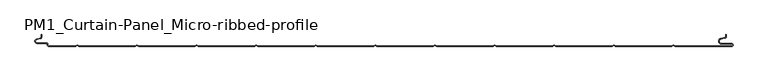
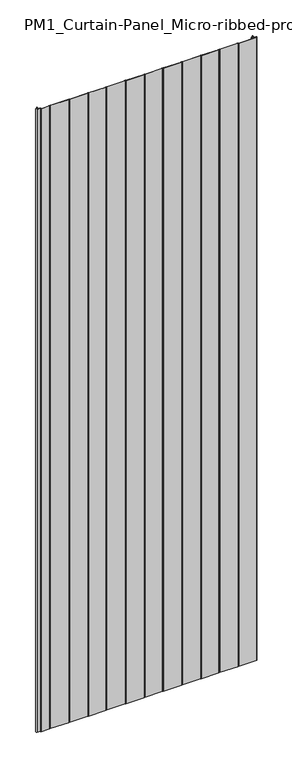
"""IFC4 building model written with IfcOpenShell, lengths in millimetres: plate geometry, PM1_Curtain-Panel_Micro-ribbed-profile : ACH_PM1_Acoustic-Sectioning-Panel_100M."""

from ifc_helpers import new_model, si_unit, frame, origin, place, context, project, spatial, polyline, circle_curve, source, transform, mapped, element, save
from ifc_brep_helpers import plane_surface, cylinder_surface, revolved_surface, advanced_brep


def pm1_curtain_panel_micro_ribbed_profile_49ab79ae(model_context):
    return source(origin(), model_context, "Body", "AdvancedBrep", [
        advanced_brep(
        [(-575.0, -84.121443, 3500.0), (-576.5500978, -86.0701831, 3500.0), (-582.7098239, -87.492268, 3500.0), (-581.9, -94.6, 3500.0), (-566.4, -94.6, 3500.0), (-564.4, -96.6, 3500.0), (-564.4, -98.0, 3500.0), (-562.4, -100.0, 3500.0), (-517.0999995, -100.0, 3500.0), (-514.4, -98.4411545, 3500.0), (-511.7000005, -100.0, 3500.0), (-417.0999995, -100.0, 3500.0), (-414.4, -98.4411545, 3500.0), (-411.7000005, -100.0, 3500.0), (-317.0999995, -100.0, 3500.0), (-314.4, -98.4411545, 3500.0), (-311.7000005, -100.0, 3500.0), (-217.0999995, -100.0, 3500.0), (-214.4, -98.4411545, 3500.0), (-211.7000005, -100.0, 3500.0), (-117.0999995, -100.0, 3500.0), (-114.4, -98.4411545, 3500.0), (-111.7000005, -100.0, 3500.0), (-17.0999995, -100.0, 3500.0), (-14.4, -98.4411545, 3500.0), (-11.7000005, -100.0, 3500.0), (82.9000005, -100.0, 3500.0), (85.6, -98.4411545, 3500.0), (88.2999995, -100.0, 3500.0), (182.9000005, -100.0, 3500.0), (185.6, -98.4411545, 3500.0), (188.2999995, -100.0, 3500.0), (282.9000005, -100.0, 3500.0), (285.6, -98.4411545, 3500.0), (288.2999995, -100.0, 3500.0), (382.9000005, -100.0, 3500.0), (385.6, -98.4411545, 3500.0), (388.2999995, -100.0, 3500.0), (482.9000005, -100.0, 3500.0), (485.6, -98.4411545, 3500.0), (488.2999995, -100.0, 3500.0), (583.1, -100.0, 3500.0), (585.6, -97.5, 3500.0), (583.1, -95.0, 3500.0), (566.1, -95.0, 3500.0), (565.405407, -87.060769, 3500.0), (571.8514855, -85.9241509, 3500.0), (574.0, -83.3636508, 3500.0), (574.0, -80.0, 3500.0), (573.2, -80.0, 3500.0), (573.2, -83.3636508, 3500.0), (571.7125669, -85.1363047, 3500.0), (565.2664884, -86.2729228, 3500.0), (566.1, -95.8, 3500.0), (583.1, -95.8, 3500.0), (583.1, -99.2, 3500.0), (488.5143588, -99.2, 3500.0), (485.6, -97.517394, 3500.0), (482.6856412, -99.2, 3500.0), (388.5143588, -99.2, 3500.0), (385.6, -97.517394, 3500.0), (382.6856412, -99.2, 3500.0), (288.5143588, -99.2, 3500.0), (285.6, -97.517394, 3500.0), (282.6856412, -99.2, 3500.0), (188.5143588, -99.2, 3500.0), (185.6, -97.517394, 3500.0), (182.6856412, -99.2, 3500.0), (88.5143588, -99.2, 3500.0), (85.6, -97.517394, 3500.0), (82.6856412, -99.2, 3500.0), (-11.4856412, -99.2, 3500.0), (-14.4, -97.517394, 3500.0), (-17.3143588, -99.2, 3500.0), (-111.4856412, -99.2, 3500.0), (-114.4, -97.517394, 3500.0), (-117.3143588, -99.2, 3500.0), (-211.4856412, -99.2, 3500.0), (-214.4, -97.517394, 3500.0), (-217.3143588, -99.2, 3500.0), (-311.4856412, -99.2, 3500.0), (-314.4, -97.517394, 3500.0), (-317.3143588, -99.2, 3500.0), (-411.4856412, -99.2, 3500.0), (-414.4, -97.517394, 3500.0), (-417.3143588, -99.2, 3500.0), (-511.4856412, -99.2, 3500.0), (-514.4, -97.517394, 3500.0), (-517.3143588, -99.2, 3500.0), (-562.4, -99.2, 3500.0), (-563.6, -98.0, 3500.0), (-563.6, -96.6, 3500.0), (-566.4, -93.8, 3500.0), (-581.9, -93.8, 3500.0), (-582.529863, -88.2717638, 3500.0), (-576.370137, -86.849679, 3500.0), (-574.2, -84.121443, 3500.0), (-574.2, -80.0, 3500.0), (-575.0, -80.0, 3500.0), (-575.0, -84.121443, 0.0), (-575.0, -80.0, 0.0), (-574.2, -80.0, 0.0), (-574.2, -84.121443, 0.0), (-576.370137, -86.8496792, 0.0), (-582.529863, -88.271764, 0.0), (-581.9, -93.8, 0.0), (-566.4, -93.8, 0.0), (-563.6, -96.6, 0.0), (-563.6, -98.0, 0.0), (-562.4, -99.2, 0.0), (-517.3143588, -99.2, 0.0), (-514.4, -97.517394, 0.0), (-511.4856412, -99.2, 0.0), (-417.3143588, -99.2, 0.0), (-414.4, -97.517394, 0.0), (-411.4856412, -99.2, 0.0), (-317.3143588, -99.2, 0.0), (-314.4, -97.517394, 0.0), (-311.4856412, -99.2, 0.0), (-217.3143588, -99.2, 0.0), (-214.4, -97.517394, 0.0), (-211.4856412, -99.2, 0.0), (-117.3143588, -99.2, 0.0), (-114.4, -97.517394, 0.0), (-111.4856412, -99.2, 0.0), (-17.3143588, -99.2, 0.0), (-14.4, -97.517394, 0.0), (-11.4856412, -99.2, 0.0), (82.6856412, -99.2, 0.0), (85.6, -97.517394, 0.0), (88.5143588, -99.2, 0.0), (182.6856412, -99.2, 0.0), (185.6, -97.517394, 0.0), (188.5143588, -99.2, 0.0), (282.6856412, -99.2, 0.0), (285.6, -97.517394, 0.0), (288.5143588, -99.2, 0.0), (382.6856412, -99.2, 0.0), (385.6, -97.517394, 0.0), (388.5143588, -99.2, 0.0), (482.6856412, -99.2, 0.0), (485.6, -97.517394, 0.0), (488.5143588, -99.2, 0.0), (583.1, -99.2, 0.0), (583.1, -95.8, 0.0), (566.1, -95.8, 0.0), (565.2664884, -86.2729229, 0.0), (571.7125669, -85.1363047, 0.0), (573.2, -83.3636508, 0.0), (573.2, -80.0, 0.0), (574.0, -80.0, 0.0), (574.0, -83.3636508, 0.0), (571.8514855, -85.9241509, 0.0), (565.405407, -87.060769, 0.0), (566.1, -95.0, 0.0), (583.1, -95.0, 0.0), (585.6, -97.5, 0.0), (583.1, -100.0, 0.0), (488.2999995, -100.0, 0.0), (485.6, -98.4411545, 0.0), (482.9000005, -100.0, 0.0), (388.2999995, -100.0, 0.0), (385.6, -98.4411545, 0.0), (382.9000005, -100.0, 0.0), (288.2999995, -100.0, 0.0), (285.6, -98.4411545, 0.0), (282.9000005, -100.0, 0.0), (188.2999995, -100.0, 0.0), (185.6, -98.4411545, 0.0), (182.9000005, -100.0, 0.0), (88.2999995, -100.0, 0.0), (85.6, -98.4411545, 0.0), (82.9000005, -100.0, 0.0), (-11.7000005, -100.0, 0.0), (-14.4, -98.4411545, 0.0), (-17.0999995, -100.0, 0.0), (-111.7000005, -100.0, 0.0), (-114.4, -98.4411545, 0.0), (-117.0999995, -100.0, 0.0), (-211.7000005, -100.0, 0.0), (-214.4, -98.4411545, 0.0), (-217.0999995, -100.0, 0.0), (-311.7000005, -100.0, 0.0), (-314.4, -98.4411545, 0.0), (-317.0999995, -100.0, 0.0), (-411.7000005, -100.0, 0.0), (-414.4, -98.4411545, 0.0), (-417.0999995, -100.0, 0.0), (-511.7000005, -100.0, 0.0), (-514.4, -98.4411545, 0.0), (-517.0999995, -100.0, 0.0), (-562.4, -100.0, 0.0), (-564.4, -98.0, 0.0), (-564.4, -96.6, 0.0), (-566.4, -94.6, 0.0), (-581.9, -94.6, 0.0), (-582.7098239, -87.4922678, 0.0), (-576.5500979, -86.070183, 0.0)],
        [
            (0, 1, circle_curve(frame((-577.0, -84.121443, 3500.0), z_axis=(0.0, 0.0, -1.0), x_axis=(1.0, 0.0, 0.0)), 2.0)),
            (1, 2),
            (2, 3, circle_curve(frame((-581.9, -91.0, 3500.0), z_axis=(0.0, 0.0, 1.0), x_axis=(1.0, 0.0, 0.0)), 3.6)),
            (3, 4),
            (4, 5, circle_curve(frame((-566.4, -96.6, 3500.0), z_axis=(0.0, 0.0, -1.0), x_axis=(1.0, 0.0, 0.0)), 2.0)),
            (5, 6),
            (6, 7, circle_curve(frame((-562.4, -98.0, 3500.0), z_axis=(0.0, 0.0, 1.0), x_axis=(1.0, 0.0, 0.0)), 2.0)),
            (7, 8),
            (8, 9),
            (9, 10),
            (10, 11),
            (11, 12),
            (12, 13),
            (13, 14),
            (14, 15),
            (15, 16),
            (16, 17),
            (17, 18),
            (18, 19),
            (19, 20),
            (20, 21),
            (21, 22),
            (22, 23),
            (23, 24),
            (24, 25),
            (25, 26),
            (26, 27),
            (27, 28),
            (28, 29),
            (29, 30),
            (30, 31),
            (31, 32),
            (32, 33),
            (33, 34),
            (34, 35),
            (35, 36),
            (36, 37),
            (37, 38),
            (38, 39),
            (39, 40),
            (40, 41),
            (41, 42, circle_curve(frame((583.1, -97.5, 3500.0), z_axis=(0.0, 0.0, 1.0), x_axis=(1.0, 0.0, 0.0)), 2.5)),
            (42, 43, circle_curve(frame((583.1, -97.5, 3500.0), z_axis=(0.0, 0.0, 1.0), x_axis=(1.0, 0.0, 0.0)), 2.5)),
            (43, 44),
            (44, 45, circle_curve(frame((566.1, -91.0, 3500.0), z_axis=(0.0, 0.0, -1.0), x_axis=(1.0, 0.0, 0.0)), 4.0)),
            (45, 46),
            (46, 47, circle_curve(frame((571.4, -83.3636508, 3500.0), z_axis=(0.0, 0.0, 1.0), x_axis=(1.0, 0.0, 0.0)), 2.6)),
            (47, 48),
            (48, 49),
            (49, 50),
            (50, 51, circle_curve(frame((571.4, -83.3636508, 3500.0), z_axis=(0.0, 0.0, -1.0), x_axis=(1.0, 0.0, 0.0)), 1.8)),
            (51, 52),
            (52, 53, circle_curve(frame((566.1, -91.0, 3500.0), z_axis=(0.0, 0.0, 1.0), x_axis=(1.0, 0.0, 0.0)), 4.8)),
            (53, 54),
            (54, 55, circle_curve(frame((583.1, -97.5, 3500.0), z_axis=(0.0, 0.0, -1.0), x_axis=(1.0, 0.0, 0.0)), 1.7)),
            (55, 56),
            (56, 57),
            (57, 58),
            (58, 59),
            (59, 60),
            (60, 61),
            (61, 62),
            (62, 63),
            (63, 64),
            (64, 65),
            (65, 66),
            (66, 67),
            (67, 68),
            (68, 69),
            (69, 70),
            (70, 71),
            (71, 72),
            (72, 73),
            (73, 74),
            (74, 75),
            (75, 76),
            (76, 77),
            (77, 78),
            (78, 79),
            (79, 80),
            (80, 81),
            (81, 82),
            (82, 83),
            (83, 84),
            (84, 85),
            (85, 86),
            (86, 87),
            (87, 88),
            (88, 89),
            (89, 90, circle_curve(frame((-562.4, -98.0, 3500.0), z_axis=(0.0, 0.0, -1.0), x_axis=(1.0, 0.0, 0.0)), 1.2)),
            (90, 91),
            (91, 92, circle_curve(frame((-566.4, -96.6, 3500.0), z_axis=(0.0, 0.0, 1.0), x_axis=(1.0, 0.0, 0.0)), 2.8)),
            (92, 93),
            (93, 94, circle_curve(frame((-581.9, -91.0, 3500.0), z_axis=(0.0, 0.0, -1.0), x_axis=(1.0, 0.0, 0.0)), 2.8)),
            (94, 95),
            (95, 96, circle_curve(frame((-577.0, -84.121443, 3500.0), z_axis=(0.0, 0.0, 1.0), x_axis=(1.0, 0.0, 0.0)), 2.8)),
            (96, 97),
            (97, 98),
            (98, 0),
            (99, 100),
            (100, 101),
            (101, 102),
            (102, 103, circle_curve(frame((-577.0, -84.121443, 0.0), z_axis=(0.0, 0.0, -1.0), x_axis=(1.0, 0.0, 0.0)), 2.8)),
            (103, 104),
            (104, 105, circle_curve(frame((-581.9, -91.0, 0.0), z_axis=(0.0, 0.0, 1.0), x_axis=(1.0, 0.0, 0.0)), 2.8)),
            (105, 106),
            (106, 107, circle_curve(frame((-566.4, -96.6, 0.0), z_axis=(0.0, 0.0, -1.0), x_axis=(1.0, 0.0, 0.0)), 2.8)),
            (107, 108),
            (108, 109, circle_curve(frame((-562.4, -98.0, 0.0), z_axis=(0.0, 0.0, 1.0), x_axis=(1.0, 0.0, 0.0)), 1.2)),
            (109, 110),
            (110, 111),
            (111, 112),
            (112, 113),
            (113, 114),
            (114, 115),
            (115, 116),
            (116, 117),
            (117, 118),
            (118, 119),
            (119, 120),
            (120, 121),
            (121, 122),
            (122, 123),
            (123, 124),
            (124, 125),
            (125, 126),
            (126, 127),
            (127, 128),
            (128, 129),
            (129, 130),
            (130, 131),
            (131, 132),
            (132, 133),
            (133, 134),
            (134, 135),
            (135, 136),
            (136, 137),
            (137, 138),
            (138, 139),
            (139, 140),
            (140, 141),
            (141, 142),
            (142, 143),
            (143, 144, circle_curve(frame((583.1, -97.5, 0.0), z_axis=(0.0, 0.0, 1.0), x_axis=(1.0, 0.0, 0.0)), 1.7)),
            (144, 145),
            (145, 146, circle_curve(frame((566.1, -91.0, 0.0), z_axis=(0.0, 0.0, -1.0), x_axis=(1.0, 0.0, 0.0)), 4.8)),
            (146, 147),
            (147, 148, circle_curve(frame((571.4, -83.3636508, 0.0), z_axis=(0.0, 0.0, 1.0), x_axis=(1.0, 0.0, 0.0)), 1.8)),
            (148, 149),
            (149, 150),
            (150, 151),
            (151, 152, circle_curve(frame((571.4, -83.3636508, 0.0), z_axis=(0.0, 0.0, -1.0), x_axis=(1.0, 0.0, 0.0)), 2.6)),
            (152, 153),
            (153, 154, circle_curve(frame((566.1, -91.0, 0.0), z_axis=(0.0, 0.0, 1.0), x_axis=(1.0, 0.0, 0.0)), 4.0)),
            (154, 155),
            (155, 156, circle_curve(frame((583.1, -97.5, 0.0), z_axis=(0.0, 0.0, -1.0), x_axis=(1.0, 0.0, 0.0)), 2.5)),
            (156, 157, circle_curve(frame((583.1, -97.5, 0.0), z_axis=(0.0, 0.0, -1.0), x_axis=(1.0, 0.0, 0.0)), 2.5)),
            (157, 158),
            (158, 159),
            (159, 160),
            (160, 161),
            (161, 162),
            (162, 163),
            (163, 164),
            (164, 165),
            (165, 166),
            (166, 167),
            (167, 168),
            (168, 169),
            (169, 170),
            (170, 171),
            (171, 172),
            (172, 173),
            (173, 174),
            (174, 175),
            (175, 176),
            (176, 177),
            (177, 178),
            (178, 179),
            (179, 180),
            (180, 181),
            (181, 182),
            (182, 183),
            (183, 184),
            (184, 185),
            (185, 186),
            (186, 187),
            (187, 188),
            (188, 189),
            (189, 190),
            (190, 191),
            (191, 192, circle_curve(frame((-562.4, -98.0, 0.0), z_axis=(0.0, 0.0, -1.0), x_axis=(1.0, 0.0, 0.0)), 2.0)),
            (192, 193),
            (193, 194, circle_curve(frame((-566.4, -96.6, 0.0), z_axis=(0.0, 0.0, 1.0), x_axis=(1.0, 0.0, 0.0)), 2.0)),
            (194, 195),
            (195, 196, circle_curve(frame((-581.9, -91.0, 0.0), z_axis=(0.0, 0.0, -1.0), x_axis=(1.0, 0.0, 0.0)), 3.6)),
            (196, 197),
            (197, 99, circle_curve(frame((-577.0, -84.121443, 0.0), z_axis=(0.0, 0.0, 1.0), x_axis=(1.0, 0.0, 0.0)), 2.0)),
            (0, 99),
            (197, 1),
            (196, 2),
            (195, 3),
            (194, 4),
            (193, 5),
            (192, 6),
            (191, 7),
            (190, 8),
            (189, 9),
            (188, 10),
            (187, 11),
            (186, 12),
            (185, 13),
            (184, 14),
            (183, 15),
            (182, 16),
            (181, 17),
            (180, 18),
            (179, 19),
            (178, 20),
            (177, 21),
            (176, 22),
            (175, 23),
            (174, 24),
            (173, 25),
            (172, 26),
            (171, 27),
            (170, 28),
            (169, 29),
            (168, 30),
            (167, 31),
            (166, 32),
            (165, 33),
            (164, 34),
            (163, 35),
            (162, 36),
            (161, 37),
            (160, 38),
            (159, 39),
            (158, 40),
            (157, 41),
            (155, 43),
            (154, 44),
            (153, 45),
            (152, 46),
            (151, 47),
            (150, 48),
            (149, 49),
            (148, 50),
            (147, 51),
            (146, 52),
            (145, 53),
            (144, 54),
            (143, 55),
            (142, 56),
            (141, 57),
            (140, 58),
            (139, 59),
            (138, 60),
            (137, 61),
            (136, 62),
            (135, 63),
            (134, 64),
            (133, 65),
            (132, 66),
            (131, 67),
            (130, 68),
            (129, 69),
            (128, 70),
            (127, 71),
            (126, 72),
            (125, 73),
            (124, 74),
            (123, 75),
            (122, 76),
            (121, 77),
            (120, 78),
            (119, 79),
            (118, 80),
            (117, 81),
            (116, 82),
            (115, 83),
            (114, 84),
            (113, 85),
            (112, 86),
            (111, 87),
            (110, 88),
            (109, 89),
            (108, 90),
            (107, 91),
            (106, 92),
            (105, 93),
            (104, 94),
            (103, 95),
            (102, 96),
            (101, 97),
            (100, 98),
        ],
        [
            plane_surface(frame((-575.0, -100.0, 3500.0), z_axis=(0.0, 0.0, 1.0), x_axis=(0.0, 1.0, 0.0))),
            plane_surface(frame((-575.0, -100.0, 0.0), z_axis=(0.0, 0.0, -1.0), x_axis=(0.0, 1.0, 0.0))),
            revolved_surface(polyline([(-575.0, -84.121443, 0.0), (-575.0, -84.121443, 3500.0)]), (-577.0, -84.121443, 3500.0), (0.0, 0.0, -1.0)),
            plane_surface(frame((-576.5500979, -86.070183, 3500.0), z_axis=(-0.22495108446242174, 0.9743700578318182, 0.0), x_axis=(0.0, 0.0, -1.0))),
            cylinder_surface(frame((-581.9, -91.0, 3500.0), z_axis=(0.0, 0.0, 1.0), x_axis=(1.0, 0.0, 0.0)), 3.6),
            plane_surface(frame((-581.9, -94.6, 3500.0), z_axis=(0.0, -1.0, 0.0), x_axis=(0.0, 0.0, -1.0))),
            revolved_surface(polyline([(-564.4, -96.6, 0.0), (-564.4, -96.6, 3500.0)]), (-566.4, -96.6, 3500.0), (0.0, 0.0, -1.0)),
            plane_surface(frame((-564.4, -96.6, 3500.0), z_axis=(-1.0, 0.0, 0.0), x_axis=(0.0, 0.0, -1.0))),
            cylinder_surface(frame((-562.4, -98.0, 3500.0), z_axis=(0.0, 0.0, 1.0), x_axis=(1.0, 0.0, 0.0)), 2.0),
            plane_surface(frame((-562.4, -100.0, 3500.0), z_axis=(0.0, -1.0, 0.0), x_axis=(0.0, 0.0, -1.0))),
            plane_surface(frame((-517.0999995, -100.0, 3500.0), z_axis=(0.5000000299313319, -0.8660253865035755, 0.0), x_axis=(0.0, 0.0, -1.0))),
            plane_surface(frame((-514.4, -98.4411545, 3500.0), z_axis=(-0.5000000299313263, -0.8660253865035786, 0.0), x_axis=(0.0, 0.0, -1.0))),
            plane_surface(frame((-511.7000005, -100.0, 3500.0), z_axis=(0.0, -1.0, 0.0), x_axis=(0.0, 0.0, -1.0))),
            plane_surface(frame((-417.0999995, -100.0, 3500.0), z_axis=(0.5000000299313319, -0.8660253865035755, 0.0), x_axis=(0.0, 0.0, -1.0))),
            plane_surface(frame((-414.4, -98.4411545, 3500.0), z_axis=(-0.5000000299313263, -0.8660253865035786, 0.0), x_axis=(0.0, 0.0, -1.0))),
            plane_surface(frame((-411.7000005, -100.0, 3500.0), z_axis=(0.0, -1.0, 0.0), x_axis=(0.0, 0.0, -1.0))),
            plane_surface(frame((-317.0999995, -100.0, 3500.0), z_axis=(0.5000000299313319, -0.8660253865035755, 0.0), x_axis=(0.0, 0.0, -1.0))),
            plane_surface(frame((-314.4, -98.4411545, 3500.0), z_axis=(-0.5000000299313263, -0.8660253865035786, 0.0), x_axis=(0.0, 0.0, -1.0))),
            plane_surface(frame((-311.7000005, -100.0, 3500.0), z_axis=(0.0, -1.0, 0.0), x_axis=(0.0, 0.0, -1.0))),
            plane_surface(frame((-217.0999995, -100.0, 3500.0), z_axis=(0.5000000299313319, -0.8660253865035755, 0.0), x_axis=(0.0, 0.0, -1.0))),
            plane_surface(frame((-214.4, -98.4411545, 3500.0), z_axis=(-0.5000000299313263, -0.8660253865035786, 0.0), x_axis=(0.0, 0.0, -1.0))),
            plane_surface(frame((-211.7000005, -100.0, 3500.0), z_axis=(0.0, -1.0, 0.0), x_axis=(0.0, 0.0, -1.0))),
            plane_surface(frame((-117.0999995, -100.0, 3500.0), z_axis=(0.5000000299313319, -0.8660253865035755, 0.0), x_axis=(0.0, 0.0, -1.0))),
            plane_surface(frame((-114.4, -98.4411545, 3500.0), z_axis=(-0.5000000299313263, -0.8660253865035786, 0.0), x_axis=(0.0, 0.0, -1.0))),
            plane_surface(frame((-111.7000005, -100.0, 3500.0), z_axis=(0.0, -1.0, 0.0), x_axis=(0.0, 0.0, -1.0))),
            plane_surface(frame((-17.0999995, -100.0, 3500.0), z_axis=(0.5000000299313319, -0.8660253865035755, 0.0), x_axis=(0.0, 0.0, -1.0))),
            plane_surface(frame((-14.4, -98.4411545, 3500.0), z_axis=(-0.5000000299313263, -0.8660253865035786, 0.0), x_axis=(0.0, 0.0, -1.0))),
            plane_surface(frame((-11.7000005, -100.0, 3500.0), z_axis=(0.0, -1.0, 0.0), x_axis=(0.0, 0.0, -1.0))),
            plane_surface(frame((82.9000005, -100.0, 3500.0), z_axis=(0.5000000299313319, -0.8660253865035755, 0.0), x_axis=(0.0, 0.0, -1.0))),
            plane_surface(frame((85.6, -98.4411545, 3500.0), z_axis=(-0.5000000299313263, -0.8660253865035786, 0.0), x_axis=(0.0, 0.0, -1.0))),
            plane_surface(frame((88.2999995, -100.0, 3500.0), z_axis=(0.0, -1.0, 0.0), x_axis=(0.0, 0.0, -1.0))),
            plane_surface(frame((182.9000005, -100.0, 3500.0), z_axis=(0.5000000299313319, -0.8660253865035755, 0.0), x_axis=(0.0, 0.0, -1.0))),
            plane_surface(frame((185.6, -98.4411545, 3500.0), z_axis=(-0.5000000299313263, -0.8660253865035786, 0.0), x_axis=(0.0, 0.0, -1.0))),
            plane_surface(frame((188.2999995, -100.0, 3500.0), z_axis=(0.0, -1.0, 0.0), x_axis=(0.0, 0.0, -1.0))),
            plane_surface(frame((282.9000005, -100.0, 3500.0), z_axis=(0.5000000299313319, -0.8660253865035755, 0.0), x_axis=(0.0, 0.0, -1.0))),
            plane_surface(frame((285.6, -98.4411545, 3500.0), z_axis=(-0.5000000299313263, -0.8660253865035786, 0.0), x_axis=(0.0, 0.0, -1.0))),
            plane_surface(frame((288.2999995, -100.0, 3500.0), z_axis=(0.0, -1.0, 0.0), x_axis=(0.0, 0.0, -1.0))),
            plane_surface(frame((382.9000005, -100.0, 3500.0), z_axis=(0.5000000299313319, -0.8660253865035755, 0.0), x_axis=(0.0, 0.0, -1.0))),
            plane_surface(frame((385.6, -98.4411545, 3500.0), z_axis=(-0.5000000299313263, -0.8660253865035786, 0.0), x_axis=(0.0, 0.0, -1.0))),
            plane_surface(frame((388.2999995, -100.0, 3500.0), z_axis=(0.0, -1.0, 0.0), x_axis=(0.0, 0.0, -1.0))),
            plane_surface(frame((482.9000005, -100.0, 3500.0), z_axis=(0.5000000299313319, -0.8660253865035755, 0.0), x_axis=(0.0, 0.0, -1.0))),
            plane_surface(frame((485.6, -98.4411545, 3500.0), z_axis=(-0.5000000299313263, -0.8660253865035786, 0.0), x_axis=(0.0, 0.0, -1.0))),
            plane_surface(frame((535.6, -100.0, 3500.0), z_axis=(0.0, -1.0, 0.0), x_axis=(0.0, 0.0, -1.0))),
            cylinder_surface(frame((583.1, -97.5, 3500.0), z_axis=(0.0, 0.0, 1.0), x_axis=(1.0, 0.0, 0.0)), 2.5),
            plane_surface(frame((583.1, -95.0, 3500.0), z_axis=(0.0, 1.0, 0.0), x_axis=(0.0, 0.0, -1.0))),
            revolved_surface(polyline([(570.1, -91.0, 0.0), (570.1, -91.0, 3500.0)]), (566.1, -91.0, 3500.0), (0.0, 0.0, -1.0)),
            plane_surface(frame((565.405407, -87.060769, 3500.0), z_axis=(0.17364825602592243, -0.9848077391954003, 0.0), x_axis=(0.0, 0.0, -1.0))),
            cylinder_surface(frame((571.4, -83.3636508, 3500.0), z_axis=(0.0, 0.0, 1.0), x_axis=(1.0, 0.0, 0.0)), 2.6),
            plane_surface(frame((574.0, -83.3636508, 3500.0), z_axis=(1.0, 0.0, 0.0), x_axis=(0.0, 0.0, -1.0))),
            plane_surface(frame((574.0, -80.0, 3500.0), z_axis=(0.0, 1.0, 0.0), x_axis=(0.0, 0.0, -1.0))),
            plane_surface(frame((573.2, -80.0, 3500.0), z_axis=(-1.0, 0.0, 0.0), x_axis=(0.0, 0.0, -1.0))),
            revolved_surface(polyline([(573.1999999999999, -83.3636508, 0.0), (573.1999999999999, -83.3636508, 3500.0)]), (571.4, -83.3636508, 3500.0), (0.0, 0.0, -1.0)),
            plane_surface(frame((571.7125669, -85.1363047, 3500.0), z_axis=(-0.17364825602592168, 0.9848077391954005, 0.0), x_axis=(0.0, 0.0, -1.0))),
            cylinder_surface(frame((566.1, -91.0, 3500.0), z_axis=(0.0, 0.0, 1.0), x_axis=(1.0, 0.0, 0.0)), 4.8),
            plane_surface(frame((566.1, -95.8, 3500.0), z_axis=(0.0, -1.0, 0.0), x_axis=(0.0, 0.0, -1.0))),
            revolved_surface(polyline([(584.8000000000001, -97.5, 0.0), (584.8000000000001, -97.5, 3500.0)]), (583.1, -97.5, 3500.0), (0.0, 0.0, -1.0)),
            plane_surface(frame((535.6, -99.2, 3500.0), z_axis=(0.0, 1.0, 0.0), x_axis=(0.0, 0.0, -1.0))),
            plane_surface(frame((488.5143588, -99.2, 3500.0), z_axis=(0.5000000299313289, 0.8660253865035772, 0.0), x_axis=(0.0, 0.0, -1.0))),
            plane_surface(frame((485.6, -97.517394, 3500.0), z_axis=(-0.5000000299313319, 0.8660253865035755, 0.0), x_axis=(0.0, 0.0, -1.0))),
            plane_surface(frame((482.6856412, -99.2, 3500.0), z_axis=(0.0, 1.0, 0.0), x_axis=(0.0, 0.0, -1.0))),
            plane_surface(frame((388.5143588, -99.2, 3500.0), z_axis=(0.5000000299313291, 0.8660253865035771, 0.0), x_axis=(0.0, 0.0, -1.0))),
            plane_surface(frame((385.6, -97.517394, 3500.0), z_axis=(-0.500000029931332, 0.8660253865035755, 0.0), x_axis=(0.0, 0.0, -1.0))),
            plane_surface(frame((382.6856412, -99.2, 3500.0), z_axis=(0.0, 1.0, 0.0), x_axis=(0.0, 0.0, -1.0))),
            plane_surface(frame((288.5143588, -99.2, 3500.0), z_axis=(0.5000000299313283, 0.8660253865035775, 0.0), x_axis=(0.0, 0.0, -1.0))),
            plane_surface(frame((285.6, -97.517394, 3500.0), z_axis=(-0.5000000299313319, 0.8660253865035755, 0.0), x_axis=(0.0, 0.0, -1.0))),
            plane_surface(frame((282.6856412, -99.2, 3500.0), z_axis=(0.0, 1.0, 0.0), x_axis=(0.0, 0.0, -1.0))),
            plane_surface(frame((188.5143588, -99.2, 3500.0), z_axis=(0.5000000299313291, 0.8660253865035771, 0.0), x_axis=(0.0, 0.0, -1.0))),
            plane_surface(frame((185.6, -97.517394, 3500.0), z_axis=(-0.5000000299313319, 0.8660253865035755, 0.0), x_axis=(0.0, 0.0, -1.0))),
            plane_surface(frame((182.6856412, -99.2, 3500.0), z_axis=(0.0, 1.0, 0.0), x_axis=(0.0, 0.0, -1.0))),
            plane_surface(frame((88.5143588, -99.2, 3500.0), z_axis=(0.5000000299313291, 0.8660253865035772, 0.0), x_axis=(0.0, 0.0, -1.0))),
            plane_surface(frame((85.6, -97.517394, 3500.0), z_axis=(-0.5000000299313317, 0.8660253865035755, 0.0), x_axis=(0.0, 0.0, -1.0))),
            plane_surface(frame((82.6856412, -99.2, 3500.0), z_axis=(0.0, 1.0, 0.0), x_axis=(0.0, 0.0, -1.0))),
            plane_surface(frame((-11.4856412, -99.2, 3500.0), z_axis=(0.500000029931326, 0.8660253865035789, 0.0), x_axis=(0.0, 0.0, -1.0))),
            plane_surface(frame((-14.4, -97.517394, 3500.0), z_axis=(-0.500000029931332, 0.8660253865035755, 0.0), x_axis=(0.0, 0.0, -1.0))),
            plane_surface(frame((-17.3143588, -99.2, 3500.0), z_axis=(0.0, 1.0, 0.0), x_axis=(0.0, 0.0, -1.0))),
            plane_surface(frame((-111.4856412, -99.2, 3500.0), z_axis=(0.5000000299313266, 0.8660253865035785, 0.0), x_axis=(0.0, 0.0, -1.0))),
            plane_surface(frame((-114.4, -97.517394, 3500.0), z_axis=(-0.5000000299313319, 0.8660253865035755, 0.0), x_axis=(0.0, 0.0, -1.0))),
            plane_surface(frame((-117.3143588, -99.2, 3500.0), z_axis=(0.0, 1.0, 0.0), x_axis=(0.0, 0.0, -1.0))),
            plane_surface(frame((-211.4856412, -99.2, 3500.0), z_axis=(0.5000000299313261, 0.8660253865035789, 0.0), x_axis=(0.0, 0.0, -1.0))),
            plane_surface(frame((-214.4, -97.517394, 3500.0), z_axis=(-0.500000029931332, 0.8660253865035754, 0.0), x_axis=(0.0, 0.0, -1.0))),
            plane_surface(frame((-217.3143588, -99.2, 3500.0), z_axis=(0.0, 1.0, 0.0), x_axis=(0.0, 0.0, -1.0))),
            plane_surface(frame((-311.4856412, -99.2, 3500.0), z_axis=(0.5000000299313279, 0.8660253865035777, 0.0), x_axis=(0.0, 0.0, -1.0))),
            plane_surface(frame((-314.4, -97.517394, 3500.0), z_axis=(-0.5000000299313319, 0.8660253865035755, 0.0), x_axis=(0.0, 0.0, -1.0))),
            plane_surface(frame((-317.3143588, -99.2, 3500.0), z_axis=(0.0, 1.0, 0.0), x_axis=(0.0, 0.0, -1.0))),
            plane_surface(frame((-411.4856412, -99.2, 3500.0), z_axis=(0.5000000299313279, 0.8660253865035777, 0.0), x_axis=(0.0, 0.0, -1.0))),
            plane_surface(frame((-414.4, -97.517394, 3500.0), z_axis=(-0.5000000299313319, 0.8660253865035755, 0.0), x_axis=(0.0, 0.0, -1.0))),
            plane_surface(frame((-417.3143588, -99.2, 3500.0), z_axis=(0.0, 1.0, 0.0), x_axis=(0.0, 0.0, -1.0))),
            plane_surface(frame((-511.4856412, -99.2, 3500.0), z_axis=(0.5000000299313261, 0.8660253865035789, 0.0), x_axis=(0.0, 0.0, -1.0))),
            plane_surface(frame((-514.4, -97.517394, 3500.0), z_axis=(-0.5000000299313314, 0.8660253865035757, 0.0), x_axis=(0.0, 0.0, -1.0))),
            plane_surface(frame((-517.3143588, -99.2, 3500.0), z_axis=(0.0, 1.0, 0.0), x_axis=(0.0, 0.0, -1.0))),
            revolved_surface(polyline([(-561.1999999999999, -98.0, 0.0), (-561.1999999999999, -98.0, 3500.0)]), (-562.4, -98.0, 3500.0), (0.0, 0.0, -1.0)),
            plane_surface(frame((-563.6, -98.0, 3500.0), z_axis=(1.0, 0.0, 0.0), x_axis=(0.0, 0.0, -1.0))),
            cylinder_surface(frame((-566.4, -96.6, 3500.0), z_axis=(0.0, 0.0, 1.0), x_axis=(1.0, 0.0, 0.0)), 2.8),
            plane_surface(frame((-566.4, -93.8, 3500.0), z_axis=(0.0, 1.0, 0.0), x_axis=(0.0, 0.0, -1.0))),
            revolved_surface(polyline([(-579.1, -91.0, 0.0), (-579.1, -91.0, 3500.0)]), (-581.9, -91.0, 3500.0), (0.0, 0.0, -1.0)),
            plane_surface(frame((-582.529863, -88.271764, 3500.0), z_axis=(0.22495108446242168, -0.9743700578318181, 0.0), x_axis=(0.0, 0.0, -1.0))),
            cylinder_surface(frame((-577.0, -84.121443, 3500.0), z_axis=(0.0, 0.0, 1.0), x_axis=(1.0, 0.0, 0.0)), 2.8),
            plane_surface(frame((-574.2, -84.121443, 3500.0), z_axis=(1.0, 0.0, 0.0), x_axis=(0.0, 0.0, -1.0))),
            plane_surface(frame((-574.2, -80.0, 3500.0), z_axis=(0.0, 1.0, 0.0), x_axis=(0.0, 0.0, -1.0))),
            plane_surface(frame((-575.0, -80.0, 3500.0), z_axis=(-1.0, 0.0, 0.0), x_axis=(0.0, 0.0, -1.0))),
        ],
        [
            (0, [[1, 2, 3, 4, 5, 6, 7, 8, 9, 10, 11, 12, 13, 14, 15, 16, 17, 18, 19, 20, 21, 22, 23, 24, 25, 26, 27, 28, 29, 30, 31, 32, 33, 34, 35, 36, 37, 38, 39, 40, 41, 42, 43, 44, 45, 46, 47, 48, 49, 50, 51, 52, 53, 54, 55, 56, 57, 58, 59, 60, 61, 62, 63, 64, 65, 66, 67, 68, 69, 70, 71, 72, 73, 74, 75, 76, 77, 78, 79, 80, 81, 82, 83, 84, 85, 86, 87, 88, 89, 90, 91, 92, 93, 94, 95, 96, 97, 98, 99]]),
            (1, [[100, 101, 102, 103, 104, 105, 106, 107, 108, 109, 110, 111, 112, 113, 114, 115, 116, 117, 118, 119, 120, 121, 122, 123, 124, 125, 126, 127, 128, 129, 130, 131, 132, 133, 134, 135, 136, 137, 138, 139, 140, 141, 142, 143, 144, 145, 146, 147, 148, 149, 150, 151, 152, 153, 154, 155, 156, 157, 158, 159, 160, 161, 162, 163, 164, 165, 166, 167, 168, 169, 170, 171, 172, 173, 174, 175, 176, 177, 178, 179, 180, 181, 182, 183, 184, 185, 186, 187, 188, 189, 190, 191, 192, 193, 194, 195, 196, 197, 198]]),
            (2, [[-1, 199, -198, 200]]),
            (3, [[-2, -200, -197, 201]]),
            (4, [[-3, -201, -196, 202]]),
            (5, [[-4, -202, -195, 203]]),
            (6, [[-5, -203, -194, 204]]),
            (7, [[-6, -204, -193, 205]]),
            (8, [[-7, -205, -192, 206]]),
            (9, [[-8, -206, -191, 207]]),
            (10, [[-9, -207, -190, 208]]),
            (11, [[-10, -208, -189, 209]]),
            (12, [[-11, -209, -188, 210]]),
            (13, [[-12, -210, -187, 211]]),
            (14, [[-13, -211, -186, 212]]),
            (15, [[-14, -212, -185, 213]]),
            (16, [[-15, -213, -184, 214]]),
            (17, [[-16, -214, -183, 215]]),
            (18, [[-17, -215, -182, 216]]),
            (19, [[-18, -216, -181, 217]]),
            (20, [[-19, -217, -180, 218]]),
            (21, [[-20, -218, -179, 219]]),
            (22, [[-21, -219, -178, 220]]),
            (23, [[-22, -220, -177, 221]]),
            (24, [[-23, -221, -176, 222]]),
            (25, [[-24, -222, -175, 223]]),
            (26, [[-25, -223, -174, 224]]),
            (27, [[-26, -224, -173, 225]]),
            (28, [[-27, -225, -172, 226]]),
            (29, [[-28, -226, -171, 227]]),
            (30, [[-29, -227, -170, 228]]),
            (31, [[-30, -228, -169, 229]]),
            (32, [[-31, -229, -168, 230]]),
            (33, [[-32, -230, -167, 231]]),
            (34, [[-33, -231, -166, 232]]),
            (35, [[-34, -232, -165, 233]]),
            (36, [[-35, -233, -164, 234]]),
            (37, [[-36, -234, -163, 235]]),
            (38, [[-37, -235, -162, 236]]),
            (39, [[-38, -236, -161, 237]]),
            (40, [[-39, -237, -160, 238]]),
            (41, [[-40, -238, -159, 239]]),
            (42, [[-41, -239, -158, 240]]),
            (43, [[-240, -157, -156, 241, -43, -42]]),
            (44, [[-44, -241, -155, 242]]),
            (45, [[-45, -242, -154, 243]]),
            (46, [[-46, -243, -153, 244]]),
            (47, [[-47, -244, -152, 245]]),
            (48, [[-48, -245, -151, 246]]),
            (49, [[-49, -246, -150, 247]]),
            (50, [[-50, -247, -149, 248]]),
            (51, [[-51, -248, -148, 249]]),
            (52, [[-52, -249, -147, 250]]),
            (53, [[-53, -250, -146, 251]]),
            (54, [[-54, -251, -145, 252]]),
            (55, [[-55, -252, -144, 253]]),
            (56, [[-56, -253, -143, 254]]),
            (57, [[-57, -254, -142, 255]]),
            (58, [[-58, -255, -141, 256]]),
            (59, [[-59, -256, -140, 257]]),
            (60, [[-60, -257, -139, 258]]),
            (61, [[-61, -258, -138, 259]]),
            (62, [[-62, -259, -137, 260]]),
            (63, [[-63, -260, -136, 261]]),
            (64, [[-64, -261, -135, 262]]),
            (65, [[-65, -262, -134, 263]]),
            (66, [[-66, -263, -133, 264]]),
            (67, [[-67, -264, -132, 265]]),
            (68, [[-68, -265, -131, 266]]),
            (69, [[-69, -266, -130, 267]]),
            (70, [[-70, -267, -129, 268]]),
            (71, [[-71, -268, -128, 269]]),
            (72, [[-72, -269, -127, 270]]),
            (73, [[-73, -270, -126, 271]]),
            (74, [[-74, -271, -125, 272]]),
            (75, [[-75, -272, -124, 273]]),
            (76, [[-76, -273, -123, 274]]),
            (77, [[-77, -274, -122, 275]]),
            (78, [[-78, -275, -121, 276]]),
            (79, [[-79, -276, -120, 277]]),
            (80, [[-80, -277, -119, 278]]),
            (81, [[-81, -278, -118, 279]]),
            (82, [[-82, -279, -117, 280]]),
            (83, [[-83, -280, -116, 281]]),
            (84, [[-84, -281, -115, 282]]),
            (85, [[-85, -282, -114, 283]]),
            (86, [[-86, -283, -113, 284]]),
            (87, [[-87, -284, -112, 285]]),
            (88, [[-88, -285, -111, 286]]),
            (89, [[-89, -286, -110, 287]]),
            (90, [[-90, -287, -109, 288]]),
            (91, [[-91, -288, -108, 289]]),
            (92, [[-92, -289, -107, 290]]),
            (93, [[-93, -290, -106, 291]]),
            (94, [[-94, -291, -105, 292]]),
            (95, [[-95, -292, -104, 293]]),
            (96, [[-96, -293, -103, 294]]),
            (97, [[-97, -294, -102, 295]]),
            (98, [[-98, -295, -101, 296]]),
            (99, [[-99, -296, -100, -199]]),
        ],
    ),
    ])


if __name__ == "__main__":
    model = new_model("IFC4")
    model_context = context("Model", 3, world=origin())
    ifc_project = project(units=[si_unit("LENGTHUNIT", "METRE", prefix="MILLI")], contexts=[model_context])
    site = spatial("IfcSite", under=ifc_project)
    building = spatial("IfcBuilding", under=site)
    placement = place(None, origin())
    pm1_curtain_panel_micro_ribbed_profile_shape = pm1_curtain_panel_micro_ribbed_profile_49ab79ae(model_context)
    element("IfcPlate", 1, ObjectType="PM1_Curtain-Panel_Micro-ribbed-profile : ACH_PM1_Acoustic-Sectioning-Panel_100M", at=placement, inside=building, context=model_context, shape_type="MappedRepresentation", body=[
        mapped(pm1_curtain_panel_micro_ribbed_profile_shape, transform((0.0, 0.0, 0.0), x_axis=(1.0, 0.0, 0.0), y_axis=(0.0, 1.0, 0.0), z_axis=(0.0, 0.0, 1.0))),
    ])
    save(model, "model.ifc")
